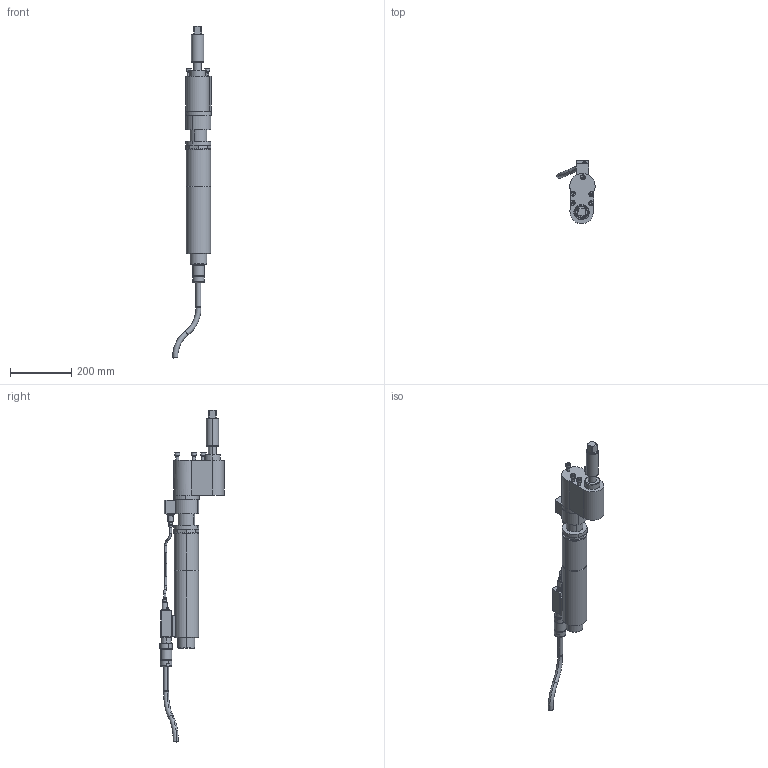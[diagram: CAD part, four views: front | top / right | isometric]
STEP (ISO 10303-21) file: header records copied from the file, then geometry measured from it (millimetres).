
FILE_DESCRIPTION(('CATIA V5 STEP'),'2;1');
FILE_NAME('O:\3D-Schrauber\stp\7920573_ECR334_DR450_AO3325_AllCATPart.stp','2010-05-05T11:13:27+00:00',('none'),('none'),'CATIA Version 5 Release 19 SP 3 (IN-10)','CATIA V5 STEP AP214','none');
FILE_SCHEMA(('AUTOMOTIVE_DESIGN { 1 0 10303 214 1 1 1 1 }'));
Length unit declared in the file: millimetre
Products named in the file (1): 7920573_ECR334_DR450_AO3325_AllCATPart
Bounding box: 125.3 x 209.91 x 1088.16 mm (x, y, z)
Volume: 4356590.2 mm3; surface area: 350368.4 mm2
Topology: 19 solids, 19 shells, 461 faces, 1008 edges, 636 vertices
Faces by surface type: plane 186, cylinder 167, cone 64, torus 44
Entity records: 12096 total; most frequent: CARTESIAN_POINT 2440, ORIENTED_EDGE 2016, DIRECTION 1654, EDGE_CURVE 1008, AXIS2_PLACEMENT_3D 859, VERTEX_POINT 636, EDGE_LOOP 512, CIRCLE 507
